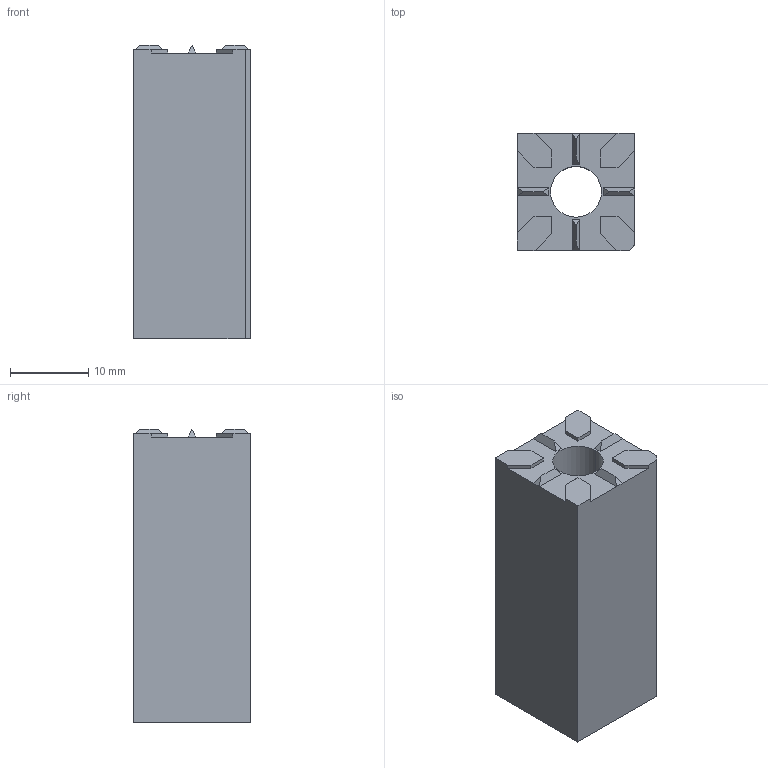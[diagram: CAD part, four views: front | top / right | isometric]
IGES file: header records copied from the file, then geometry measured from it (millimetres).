
Start section: 3D InterOp IGES (v. 2018 1.0.2), Spatial Corp. Copyright (c) 1999-2017.
Global section: file name: HER_1180_15_15_37.igs; native system: Spatial Corp.; preprocessor: 3D InterOp GENERIC/IGES 3.0; author: Noname; organization: Noname; date: 20191009.150533; units: metre
Bounding box: 15 x 15 x 37.5 mm (x, y, z)
Surface area: 3470.4 mm2 (no closed solid volume)
Topology: 0 solids, 0 shells, 48 faces, 254 edges, 254 vertices
Faces by surface type: extrusion 44, revolution 4
